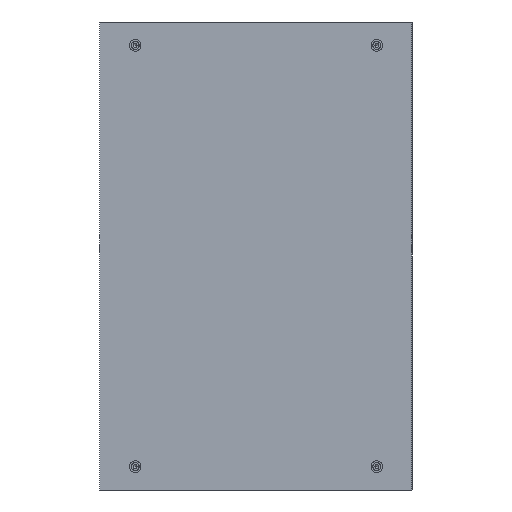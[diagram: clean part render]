
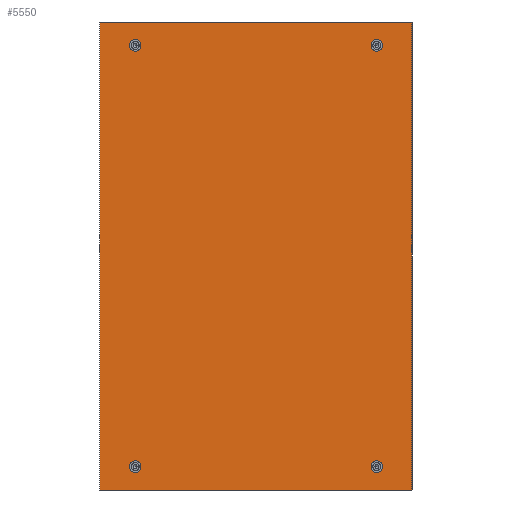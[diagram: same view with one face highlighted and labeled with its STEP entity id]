
A CAD part, left-side view. The second image highlights one B-rep face of the part: STEP entity #5550.
In plain terms, the highlighted planar face has unit normal (-1, 0, 0).
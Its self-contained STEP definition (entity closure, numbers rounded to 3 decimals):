
#353=LINE('',#9705,#905);
#354=LINE('',#9708,#906);
#355=LINE('',#9710,#907);
#356=LINE('',#9712,#908);
#905=VECTOR('',#7991,1000.);
#906=VECTOR('',#7992,1000.);
#907=VECTOR('',#7993,1000.);
#908=VECTOR('',#7994,1000.);
#1387=PLANE('',#7295);
#1727=ORIENTED_EDGE('',*,*,#3230,.T.);
#1728=ORIENTED_EDGE('',*,*,#3231,.T.);
#1729=ORIENTED_EDGE('',*,*,#3232,.T.);
#1730=ORIENTED_EDGE('',*,*,#3233,.T.);
#1731=ORIENTED_EDGE('',*,*,#3128,.F.);
#1732=ORIENTED_EDGE('',*,*,#3130,.F.);
#1733=ORIENTED_EDGE('',*,*,#3132,.F.);
#1734=ORIENTED_EDGE('',*,*,#3234,.F.);
#3128=EDGE_CURVE('',#3898,#3898,#4426,.T.);
#3130=EDGE_CURVE('',#3900,#3900,#4428,.T.);
#3132=EDGE_CURVE('',#3902,#3902,#4430,.T.);
#3230=EDGE_CURVE('',#3977,#3978,#353,.T.);
#3231=EDGE_CURVE('',#3978,#3979,#354,.T.);
#3232=EDGE_CURVE('',#3979,#3980,#355,.T.);
#3233=EDGE_CURVE('',#3980,#3977,#356,.T.);
#3234=EDGE_CURVE('',#3981,#3981,#4431,.T.);
#3898=VERTEX_POINT('',#9495);
#3900=VERTEX_POINT('',#9500);
#3902=VERTEX_POINT('',#9505);
#3977=VERTEX_POINT('',#9706);
#3978=VERTEX_POINT('',#9707);
#3979=VERTEX_POINT('',#9709);
#3980=VERTEX_POINT('',#9711);
#3981=VERTEX_POINT('',#9714);
#4426=CIRCLE('',#7261,5.125);
#4428=CIRCLE('',#7264,5.125);
#4430=CIRCLE('',#7267,5.125);
#4431=CIRCLE('',#7296,5.125);
#4632=EDGE_LOOP('',(#1727,#1728,#1729,#1730));
#4633=EDGE_LOOP('',(#1731));
#4634=EDGE_LOOP('',(#1732));
#4635=EDGE_LOOP('',(#1733));
#4636=EDGE_LOOP('',(#1734));
#5054=FACE_BOUND('',#4632,.T.);
#5055=FACE_BOUND('',#4633,.T.);
#5056=FACE_BOUND('',#4634,.T.);
#5057=FACE_BOUND('',#4635,.T.);
#5058=FACE_BOUND('',#4636,.T.);
#5550=ADVANCED_FACE('',(#5054,#5055,#5056,#5057,#5058),#1387,.T.);
#7261=AXIS2_PLACEMENT_3D('',#9494,#7824,#7825);
#7264=AXIS2_PLACEMENT_3D('',#9499,#7830,#7831);
#7267=AXIS2_PLACEMENT_3D('',#9504,#7836,#7837);
#7295=AXIS2_PLACEMENT_3D('',#9704,#7989,#7990);
#7296=AXIS2_PLACEMENT_3D('',#9713,#7995,#7996);
#7824=DIRECTION('',(-1.,0.,0.));
#7825=DIRECTION('',(0.,-1.,0.));
#7830=DIRECTION('',(-1.,0.,0.));
#7831=DIRECTION('',(0.,-1.,0.));
#7836=DIRECTION('',(-1.,0.,0.));
#7837=DIRECTION('',(0.,-1.,0.));
#7989=DIRECTION('',(-1.,0.,0.));
#7990=DIRECTION('',(0.,-1.,0.));
#7991=DIRECTION('',(0.,0.,1.));
#7992=DIRECTION('',(0.,1.,0.));
#7993=DIRECTION('',(0.,0.,-1.));
#7994=DIRECTION('',(0.,-1.,0.));
#7995=DIRECTION('',(-1.,0.,0.));
#7996=DIRECTION('',(0.,-1.,0.));
#9494=CARTESIAN_POINT('',(-1.2,155.,-270.));
#9495=CARTESIAN_POINT('',(-1.2,149.875,-270.));
#9499=CARTESIAN_POINT('',(-1.2,155.,270.));
#9500=CARTESIAN_POINT('',(-1.2,149.875,270.));
#9504=CARTESIAN_POINT('',(-1.2,-155.,-270.));
#9505=CARTESIAN_POINT('',(-1.2,-160.125,-270.));
#9704=CARTESIAN_POINT('',(-1.2,0.,0.));
#9705=CARTESIAN_POINT('',(-1.2,-200.,0.));
#9706=CARTESIAN_POINT('',(-1.2,-200.,-300.));
#9707=CARTESIAN_POINT('',(-1.2,-200.,300.));
#9708=CARTESIAN_POINT('',(-1.2,0.,300.));
#9709=CARTESIAN_POINT('',(-1.2,200.,300.));
#9710=CARTESIAN_POINT('',(-1.2,200.,0.));
#9711=CARTESIAN_POINT('',(-1.2,200.,-300.));
#9712=CARTESIAN_POINT('',(-1.2,0.,-300.));
#9713=CARTESIAN_POINT('',(-1.2,-155.,270.));
#9714=CARTESIAN_POINT('',(-1.2,-160.125,270.));
